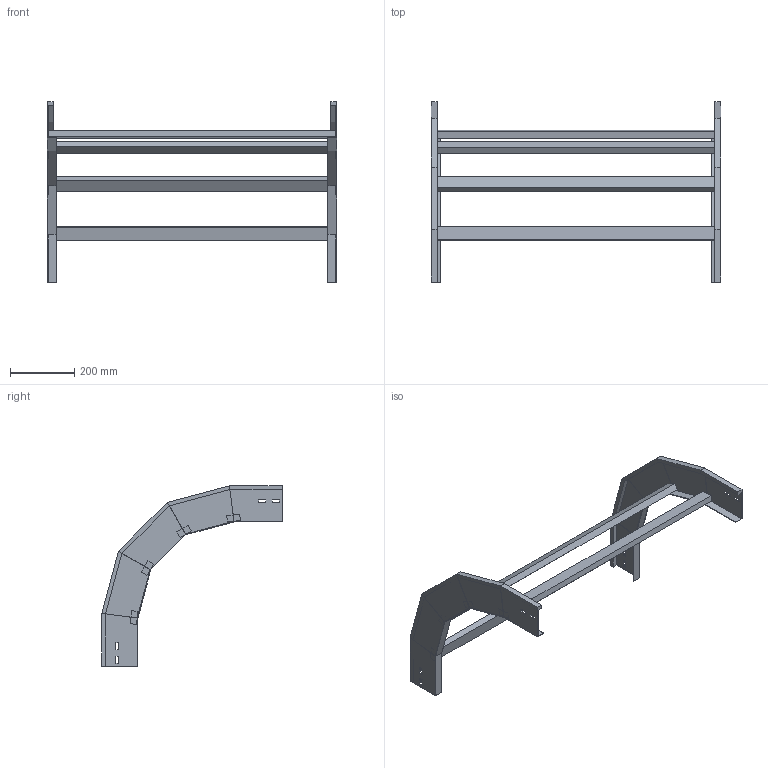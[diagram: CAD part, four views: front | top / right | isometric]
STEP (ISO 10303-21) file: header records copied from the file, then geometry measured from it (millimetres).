
FILE_DESCRIPTION (( 'STEP AP214' ), '1' );
FILE_NAME ('A2_33B3J900.step', '2025-02-21T15:03:55', ( '' ), ( '' ), 'SwSTEP 2.0', 'SolidWorks 2023', '' );
FILE_SCHEMA (( 'AUTOMOTIVE_DESIGN' ));
Length unit declared in the file: millimetre
Products named in the file (3): TRAVERSINO_900; A2_33B3J900; LONGH.DISCESA_90°_H112.5_R300
Assembly tree (6 placements, depth 2):
  A2_33B3J900
    LONGH.DISCESA_90°_H112.5_R300  x2
    TRAVERSINO_900  x4
Bounding box: 900 x 561.94 x 561.94 mm (x, y, z)
Volume: 3721074 mm3; surface area: 968539.5 mm2
Topology: 6 solids, 6 shells, 140 faces, 320 edges, 192 vertices
Faces by surface type: plane 140
Entity records: 1872 total; most frequent: CARTESIAN_POINT 309, ORIENTED_EDGE 296, DIRECTION 294, VECTOR 148, EDGE_CURVE 148, LINE 148, VERTEX_POINT 88, AXIS2_PLACEMENT_3D 73
